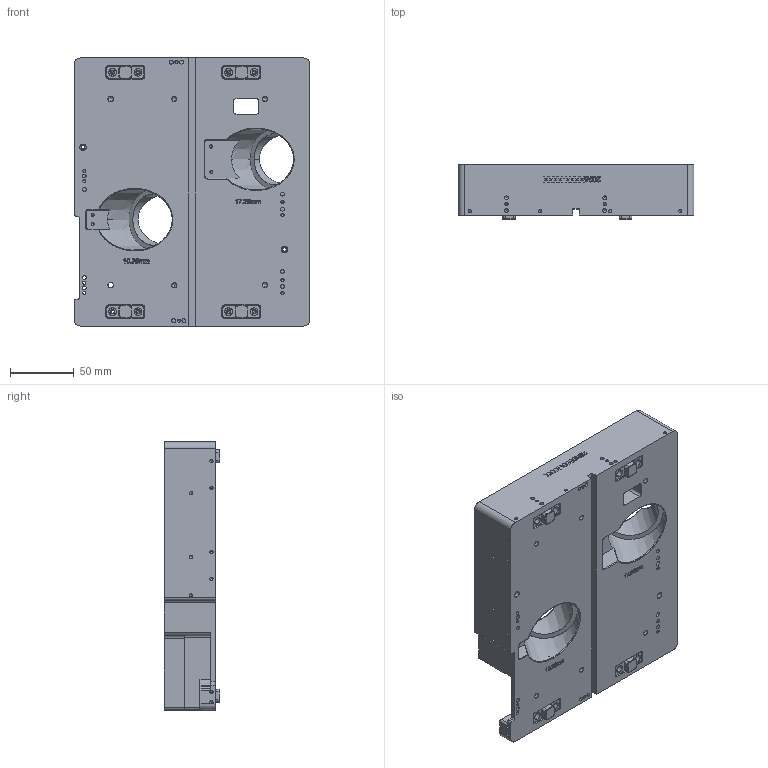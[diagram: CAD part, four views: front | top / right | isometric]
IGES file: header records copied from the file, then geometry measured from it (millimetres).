
Start section: SolidWorks IGES file using analytic representation for surfaces
Global section: file name: C:\Users\plmadmin\AppData\Local\Temp\alsp5-302-233.igs; native system: SolidWorks 2021; preprocessor: SolidWorks 2021; author: plmadmin; date: 260715.105510; units: millimetre
Bounding box: 185 x 43.5 x 210.17 mm (x, y, z)
Surface area: 142780 mm2 (no closed solid volume)
Topology: 0 solids, 0 shells, 810 faces, 13829 edges, 13639 vertices
Faces by surface type: revolution 598, bspline 212
